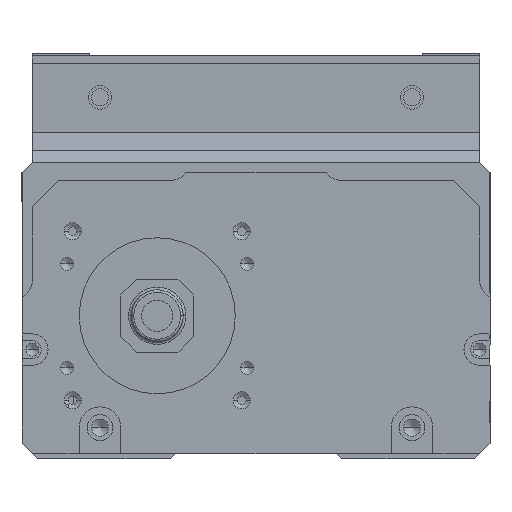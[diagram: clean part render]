
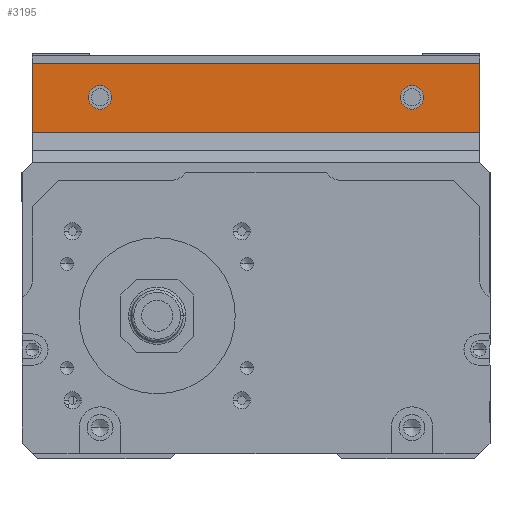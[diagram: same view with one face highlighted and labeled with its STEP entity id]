
A CAD part, front view. The second image highlights one B-rep face of the part: STEP entity #3195.
In plain terms, the highlighted planar face has unit normal (0, -1, 0).
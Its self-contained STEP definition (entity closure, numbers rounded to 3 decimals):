
#11 = VERTEX_POINT ( 'NONE', #8150 ) ;
#307 = DIRECTION ( 'NONE',  ( -1., 0., 0. ) ) ;
#318 = VERTEX_POINT ( 'NONE', #12525 ) ;
#367 = ORIENTED_EDGE ( 'NONE', *, *, #1021, .T. ) ;
#475 = DIRECTION ( 'NONE',  ( 0., 0., 1. ) ) ;
#588 = DIRECTION ( 'NONE',  ( 0., 1., 0. ) ) ;
#598 = CARTESIAN_POINT ( 'NONE',  ( -43., 78., -14.788 ) ) ;
#785 = EDGE_CURVE ( 'NONE', #318, #10001, #13066, .T. ) ;
#803 = CARTESIAN_POINT ( 'NONE',  ( -30., 78., -8. ) ) ;
#867 = DIRECTION ( 'NONE',  ( 0., 1., 0. ) ) ;
#1005 = VECTOR ( 'NONE', #7330, 1000. ) ;
#1021 = EDGE_CURVE ( 'NONE', #8214, #11, #13430, .T. ) ;
#2185 = VECTOR ( 'NONE', #2863, 1000. ) ;
#2411 = DIRECTION ( 'NONE',  ( 0., 0., -1. ) ) ;
#2633 = DIRECTION ( 'NONE',  ( 0., 1., 0. ) ) ;
#2863 = DIRECTION ( 'NONE',  ( 0., 0., -1. ) ) ;
#2925 = EDGE_CURVE ( 'NONE', #12256, #10001, #9464, .T. ) ;
#2952 = EDGE_CURVE ( 'NONE', #8085, #8360, #14942, .T. ) ;
#3004 = CARTESIAN_POINT ( 'NONE',  ( -43., 78., -1.5 ) ) ;
#3100 = PLANE ( 'NONE',  #13264 ) ;
#3195 = ADVANCED_FACE ( 'NONE', ( #4646, #10097, #15490 ), #3100, .T. ) ;
#3694 = CARTESIAN_POINT ( 'NONE',  ( 30., 78., -8. ) ) ;
#3741 = CARTESIAN_POINT ( 'NONE',  ( 30., 78., -5.75 ) ) ;
#4646 = FACE_BOUND ( 'NONE', #6250, .T. ) ;
#4900 = DIRECTION ( 'NONE',  ( 0., -1., 0. ) ) ;
#5374 = CARTESIAN_POINT ( 'NONE',  ( -30., 78., -5.75 ) ) ;
#5628 = DIRECTION ( 'NONE',  ( 0., 0., -1. ) ) ;
#5853 = CARTESIAN_POINT ( 'NONE',  ( 45., 78., -1.5 ) ) ;
#5869 = ORIENTED_EDGE ( 'NONE', *, *, #2925, .F. ) ;
#6117 = ORIENTED_EDGE ( 'NONE', *, *, #9204, .T. ) ;
#6250 = EDGE_LOOP ( 'NONE', ( #6117, #367 ) ) ;
#6377 = CARTESIAN_POINT ( 'NONE',  ( 43., 78., -1.5 ) ) ;
#6490 = LINE ( 'NONE', #15281, #11954 ) ;
#6826 = EDGE_CURVE ( 'NONE', #12256, #11637, #11876, .T. ) ;
#6923 = CARTESIAN_POINT ( 'NONE',  ( 30., 78., -10.25 ) ) ;
#7069 = CIRCLE ( 'NONE', #12831, 2.25 ) ;
#7330 = DIRECTION ( 'NONE',  ( 0., 0., 1. ) ) ;
#7422 = CARTESIAN_POINT ( 'NONE',  ( 43., 78., -1.5 ) ) ;
#8085 = VERTEX_POINT ( 'NONE', #6923 ) ;
#8150 = CARTESIAN_POINT ( 'NONE',  ( -30., 78., -10.25 ) ) ;
#8214 = VERTEX_POINT ( 'NONE', #5374 ) ;
#8360 = VERTEX_POINT ( 'NONE', #3741 ) ;
#8372 = DIRECTION ( 'NONE',  ( 0., 0., -1. ) ) ;
#8513 = DIRECTION ( 'NONE',  ( 0., 1., 0. ) ) ;
#8553 = CARTESIAN_POINT ( 'NONE',  ( 30., 78., -8. ) ) ;
#9014 = CIRCLE ( 'NONE', #10833, 2.25 ) ;
#9204 = EDGE_CURVE ( 'NONE', #11, #8214, #7069, .T. ) ;
#9330 = DIRECTION ( 'NONE',  ( -1., 0., 0. ) ) ;
#9332 = CARTESIAN_POINT ( 'NONE',  ( 45., 78., -14.788 ) ) ;
#9464 = LINE ( 'NONE', #9332, #14892 ) ;
#9502 = AXIS2_PLACEMENT_3D ( 'NONE', #8553, #8513, #8372 ) ;
#9881 = CARTESIAN_POINT ( 'NONE',  ( -30., 78., -8. ) ) ;
#10001 = VERTEX_POINT ( 'NONE', #598 ) ;
#10097 = FACE_BOUND ( 'NONE', #10689, .T. ) ;
#10165 = EDGE_CURVE ( 'NONE', #8360, #8085, #9014, .T. ) ;
#10689 = EDGE_LOOP ( 'NONE', ( #14703, #11600 ) ) ;
#10833 = AXIS2_PLACEMENT_3D ( 'NONE', #3694, #2633, #2411 ) ;
#10868 = DIRECTION ( 'NONE',  ( 0., 0., 1. ) ) ;
#11413 = ORIENTED_EDGE ( 'NONE', *, *, #785, .T. ) ;
#11600 = ORIENTED_EDGE ( 'NONE', *, *, #10165, .T. ) ;
#11637 = VERTEX_POINT ( 'NONE', #6377 ) ;
#11653 = ORIENTED_EDGE ( 'NONE', *, *, #16158, .T. ) ;
#11876 = LINE ( 'NONE', #7422, #1005 ) ;
#11954 = VECTOR ( 'NONE', #307, 1000. ) ;
#12256 = VERTEX_POINT ( 'NONE', #15960 ) ;
#12525 = CARTESIAN_POINT ( 'NONE',  ( -43., 78., -1.5 ) ) ;
#12831 = AXIS2_PLACEMENT_3D ( 'NONE', #803, #588, #475 ) ;
#13066 = LINE ( 'NONE', #3004, #2185 ) ;
#13264 = AXIS2_PLACEMENT_3D ( 'NONE', #5853, #4900, #5628 ) ;
#13430 = CIRCLE ( 'NONE', #14107, 2.25 ) ;
#13592 = EDGE_LOOP ( 'NONE', ( #5869, #14760, #11653, #11413 ) ) ;
#14107 = AXIS2_PLACEMENT_3D ( 'NONE', #9881, #867, #10868 ) ;
#14703 = ORIENTED_EDGE ( 'NONE', *, *, #2952, .T. ) ;
#14760 = ORIENTED_EDGE ( 'NONE', *, *, #6826, .T. ) ;
#14892 = VECTOR ( 'NONE', #9330, 1000. ) ;
#14942 = CIRCLE ( 'NONE', #9502, 2.25 ) ;
#15281 = CARTESIAN_POINT ( 'NONE',  ( 45., 78., -1.5 ) ) ;
#15490 = FACE_OUTER_BOUND ( 'NONE', #13592, .T. ) ;
#15960 = CARTESIAN_POINT ( 'NONE',  ( 43., 78., -14.788 ) ) ;
#16158 = EDGE_CURVE ( 'NONE', #11637, #318, #6490, .T. ) ;
